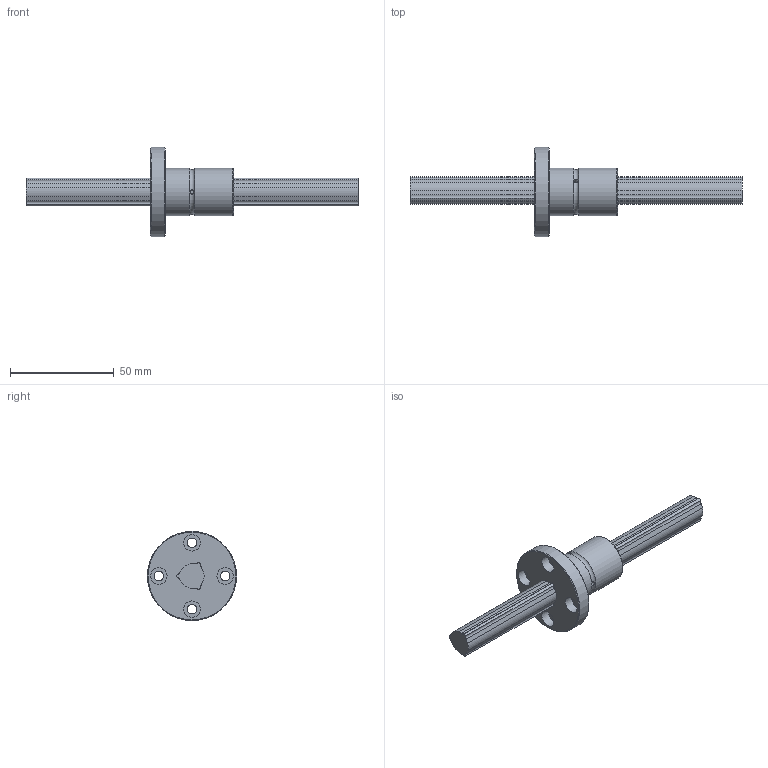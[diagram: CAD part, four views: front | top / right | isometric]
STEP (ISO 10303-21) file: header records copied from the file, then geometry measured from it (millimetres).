
FILE_DESCRIPTION(/* description */ ('STEP AP214'),/* implementation_level */ '2;1');
FILE_NAME(/* name */ 'LBF15+160L(160600)',/* time_stamp */ '2024-09-02T13:54:43+02:00',/* author */ ('License CC BY-ND 4.0'),/* organization */ ('CADENAS'),/* preprocessor_version */ 'ST-DEVELOPER v19.3',/* originating_system */ 'PARTsolutions',/* authorisation */ ' ');
FILE_SCHEMA (('AUTOMOTIVE_DESIGN {1 0 10303 214 3 1 1}'));
Length unit declared in the file: millimetre
Products named in the file (3): LBF15+160L(160600); LBF151160 Spline Shaft; LBF15 Nut
Assembly tree (2 placements, depth 2):
  LBF15+160L(160600)
    LBF151160 Spline Shaft
    LBF15 Nut
Bounding box: 160 x 43 x 43 mm (x, y, z)
Volume: 36946 mm3; surface area: 15147.2 mm2
Topology: 2 solids, 2 shells, 63 faces, 164 edges, 110 vertices
Faces by surface type: cylinder 38, plane 21, torus 2, cone 2
Full cylindrical faces by diameter (mm): 2 x3, 4.5 x4, 8 x4, 23 x2, 43 x1
Entity records: 1989 total; most frequent: CARTESIAN_POINT 388, DIRECTION 338, ORIENTED_EDGE 278, EDGE_CURVE 139, AXIS2_PLACEMENT_3D 139, VERTEX_POINT 103, EDGE_LOOP 102, FACE_BOUND 102
